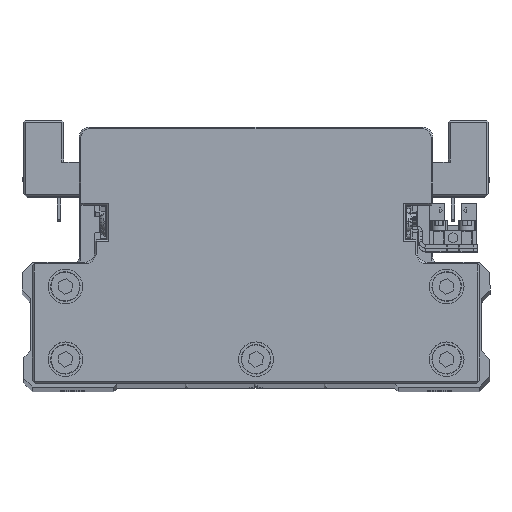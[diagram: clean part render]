
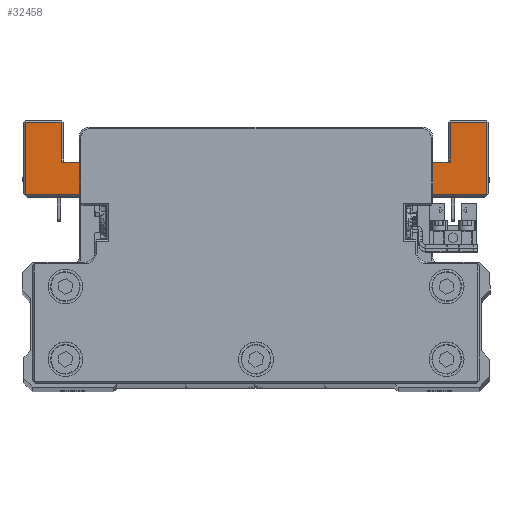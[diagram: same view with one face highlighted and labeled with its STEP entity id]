
A CAD part, top view. The second image highlights one B-rep face of the part: STEP entity #32458.
In plain terms, the highlighted planar face has unit normal (0, 0, 1) as drawn and (0, -1, 0) by its records, which use the part's own axes.
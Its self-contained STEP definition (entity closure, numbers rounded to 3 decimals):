
#385 = VECTOR ( 'NONE', #8636, 1000. ) ;
#416 = CARTESIAN_POINT ( 'NONE',  ( -56., -45., -64. ) ) ;
#597 = CARTESIAN_POINT ( 'NONE',  ( 25.802, -45., -41.111 ) ) ;
#708 = ORIENTED_EDGE ( 'NONE', *, *, #4598, .T. ) ;
#953 = CARTESIAN_POINT ( 'NONE',  ( -46., -45., -52.5 ) ) ;
#1018 = EDGE_CURVE ( 'NONE', #6846, #6693, #34623, .T. ) ;
#1850 = AXIS2_PLACEMENT_3D ( 'NONE', #31283, #3555, #15894 ) ;
#1914 = VECTOR ( 'NONE', #5238, 1000. ) ;
#2794 = CARTESIAN_POINT ( 'NONE',  ( -55.5, -45., -52.5 ) ) ;
#2919 = EDGE_CURVE ( 'NONE', #23694, #6693, #30512, .T. ) ;
#3251 = DIRECTION ( 'NONE',  ( -1., 0., 0. ) ) ;
#3349 = VECTOR ( 'NONE', #3251, 1000. ) ;
#3535 = EDGE_CURVE ( 'NONE', #9433, #7547, #7359, .T. ) ;
#3555 = DIRECTION ( 'NONE',  ( 0., 1., 0. ) ) ;
#3754 = DIRECTION ( 'NONE',  ( 0., 0., 1. ) ) ;
#3878 = ORIENTED_EDGE ( 'NONE', *, *, #2919, .F. ) ;
#3931 = VERTEX_POINT ( 'NONE', #34452 ) ;
#3962 = VERTEX_POINT ( 'NONE', #37870 ) ;
#4061 = EDGE_CURVE ( 'NONE', #28707, #29541, #32203, .T. ) ;
#4324 = DIRECTION ( 'NONE',  ( 0., 0., -1. ) ) ;
#4374 = EDGE_CURVE ( 'NONE', #34380, #3931, #18617, .T. ) ;
#4473 = CARTESIAN_POINT ( 'NONE',  ( 46., -45., -54. ) ) ;
#4506 = ORIENTED_EDGE ( 'NONE', *, *, #4374, .T. ) ;
#4598 = EDGE_CURVE ( 'NONE', #37817, #24857, #7872, .T. ) ;
#4775 = CARTESIAN_POINT ( 'NONE',  ( -66.5, -45., -64. ) ) ;
#5238 = DIRECTION ( 'NONE',  ( 1., 0., 0. ) ) ;
#6265 = CARTESIAN_POINT ( 'NONE',  ( 46., -45., -54. ) ) ;
#6693 = VERTEX_POINT ( 'NONE', #27126 ) ;
#6752 = CARTESIAN_POINT ( 'NONE',  ( -46., -45., -54. ) ) ;
#6831 = DIRECTION ( 'NONE',  ( 0., 0., -1. ) ) ;
#6846 = VERTEX_POINT ( 'NONE', #416 ) ;
#6888 = CARTESIAN_POINT ( 'NONE',  ( -39.868, -45., -42.987 ) ) ;
#6890 = CARTESIAN_POINT ( 'NONE',  ( -56., -45., -52.5 ) ) ;
#7359 = LINE ( 'NONE', #19709, #23981 ) ;
#7362 = PLANE ( 'NONE',  #19527 ) ;
#7487 = DIRECTION ( 'NONE',  ( 0., 0., -1. ) ) ;
#7547 = VERTEX_POINT ( 'NONE', #4775 ) ;
#7872 = CIRCLE ( 'NONE', #30498, 1.5 ) ;
#8065 = DIRECTION ( 'NONE',  ( 0., 1., 0. ) ) ;
#8085 = VECTOR ( 'NONE', #11779, 1000. ) ;
#8636 = DIRECTION ( 'NONE',  ( -1., 0., 0. ) ) ;
#8927 = CARTESIAN_POINT ( 'NONE',  ( 66.5, -45., -43.5 ) ) ;
#9201 = EDGE_CURVE ( 'NONE', #35825, #29541, #22886, .T. ) ;
#9250 = LINE ( 'NONE', #21597, #9674 ) ;
#9433 = VERTEX_POINT ( 'NONE', #15372 ) ;
#9674 = VECTOR ( 'NONE', #33929, 1000. ) ;
#9888 = CARTESIAN_POINT ( 'NONE',  ( 39.868, -45., -42.987 ) ) ;
#10015 = VECTOR ( 'NONE', #19236, 1000. ) ;
#10307 = CARTESIAN_POINT ( 'NONE',  ( 66.5, -45., -43. ) ) ;
#11373 = ORIENTED_EDGE ( 'NONE', *, *, #17810, .F. ) ;
#11616 = VECTOR ( 'NONE', #7487, 1000. ) ;
#11779 = DIRECTION ( 'NONE',  ( 1., 0., 0. ) ) ;
#12252 = LINE ( 'NONE', #24602, #20299 ) ;
#12917 = DIRECTION ( 'NONE',  ( -0.991, 0., 0.132 ) ) ;
#13145 = EDGE_CURVE ( 'NONE', #22106, #30830, #27160, .T. ) ;
#14287 = ORIENTED_EDGE ( 'NONE', *, *, #20892, .T. ) ;
#14429 = ORIENTED_EDGE ( 'NONE', *, *, #4061, .T. ) ;
#14862 = LINE ( 'NONE', #27213, #25416 ) ;
#15062 = EDGE_CURVE ( 'NONE', #38278, #23545, #28305, .T. ) ;
#15131 = DIRECTION ( 'NONE',  ( -1., 0., 0. ) ) ;
#15372 = CARTESIAN_POINT ( 'NONE',  ( -66.5, -45., -43. ) ) ;
#15811 = VECTOR ( 'NONE', #21275, 1000. ) ;
#15894 = DIRECTION ( 'NONE',  ( 0., 0., -1. ) ) ;
#15969 = ORIENTED_EDGE ( 'NONE', *, *, #15062, .T. ) ;
#16821 = DIRECTION ( 'NONE',  ( 1., 0., 0. ) ) ;
#17341 = CARTESIAN_POINT ( 'NONE',  ( 56., -45., -64. ) ) ;
#17455 = ORIENTED_EDGE ( 'NONE', *, *, #9201, .F. ) ;
#17810 = EDGE_CURVE ( 'NONE', #3962, #35825, #12252, .T. ) ;
#18563 = ORIENTED_EDGE ( 'NONE', *, *, #13145, .T. ) ;
#18617 = LINE ( 'NONE', #30965, #3349 ) ;
#18700 = ORIENTED_EDGE ( 'NONE', *, *, #38279, .T. ) ;
#19133 = LINE ( 'NONE', #31475, #29645 ) ;
#19236 = DIRECTION ( 'NONE',  ( 0., 0., 1. ) ) ;
#19279 = CIRCLE ( 'NONE', #1850, 1.5 ) ;
#19359 = CARTESIAN_POINT ( 'NONE',  ( -40.066, -45., -43. ) ) ;
#19527 = AXIS2_PLACEMENT_3D ( 'NONE', #19711, #32049, #4324 ) ;
#19709 = CARTESIAN_POINT ( 'NONE',  ( -66.5, -45., -64.5 ) ) ;
#19711 = CARTESIAN_POINT ( 'NONE',  ( 0., -45., 0. ) ) ;
#20299 = VECTOR ( 'NONE', #36927, 1000. ) ;
#20412 = DIRECTION ( 'NONE',  ( 0., 0., -1. ) ) ;
#20612 = LINE ( 'NONE', #32953, #1914 ) ;
#20892 = EDGE_CURVE ( 'NONE', #24857, #9433, #14862, .T. ) ;
#20981 = CARTESIAN_POINT ( 'NONE',  ( -36.217, -45., -42.5 ) ) ;
#21275 = DIRECTION ( 'NONE',  ( 0., 0., 1. ) ) ;
#21597 = CARTESIAN_POINT ( 'NONE',  ( -39.868, -45., -42.987 ) ) ;
#22106 = VERTEX_POINT ( 'NONE', #17341 ) ;
#22244 = LINE ( 'NONE', #34562, #25664 ) ;
#22886 = LINE ( 'NONE', #35213, #11616 ) ;
#23545 = VERTEX_POINT ( 'NONE', #24429 ) ;
#23629 = EDGE_CURVE ( 'NONE', #3931, #38278, #19279, .T. ) ;
#23668 = EDGE_CURVE ( 'NONE', #28707, #23694, #19133, .T. ) ;
#23694 = VERTEX_POINT ( 'NONE', #953 ) ;
#23981 = VECTOR ( 'NONE', #32047, 1000. ) ;
#24023 = LINE ( 'NONE', #36352, #385 ) ;
#24058 = ORIENTED_EDGE ( 'NONE', *, *, #34995, .T. ) ;
#24429 = CARTESIAN_POINT ( 'NONE',  ( 36.217, -45., -42.5 ) ) ;
#24563 = EDGE_CURVE ( 'NONE', #7547, #6846, #20612, .T. ) ;
#24585 = VECTOR ( 'NONE', #15131, 1000. ) ;
#24602 = CARTESIAN_POINT ( 'NONE',  ( 55.5, -45., -52.5 ) ) ;
#24857 = VERTEX_POINT ( 'NONE', #19359 ) ;
#25416 = VECTOR ( 'NONE', #39525, 1000. ) ;
#25656 = VECTOR ( 'NONE', #12917, 1000. ) ;
#25664 = VECTOR ( 'NONE', #6831, 1000. ) ;
#25748 = EDGE_LOOP ( 'NONE', ( #24058, #36295, #708, #14287, #39854, #26263, #37070, #3878, #33169, #14429, #17455, #11373, #18700, #18563, #27809, #4506, #27240, #15969 ) ) ;
#26263 = ORIENTED_EDGE ( 'NONE', *, *, #24563, .T. ) ;
#27126 = CARTESIAN_POINT ( 'NONE',  ( -56., -45., -52.5 ) ) ;
#27160 = LINE ( 'NONE', #39477, #8085 ) ;
#27213 = CARTESIAN_POINT ( 'NONE',  ( -66., -45., -43. ) ) ;
#27240 = ORIENTED_EDGE ( 'NONE', *, *, #23629, .T. ) ;
#27809 = ORIENTED_EDGE ( 'NONE', *, *, #34147, .T. ) ;
#28239 = EDGE_CURVE ( 'NONE', #35001, #37817, #9250, .T. ) ;
#28305 = LINE ( 'NONE', #597, #25656 ) ;
#28707 = VERTEX_POINT ( 'NONE', #6752 ) ;
#29541 = VERTEX_POINT ( 'NONE', #6265 ) ;
#29645 = VECTOR ( 'NONE', #3754, 1000. ) ;
#30498 = AXIS2_PLACEMENT_3D ( 'NONE', #35787, #8065, #20412 ) ;
#30512 = LINE ( 'NONE', #2794, #24585 ) ;
#30728 = CARTESIAN_POINT ( 'NONE',  ( 46., -45., -52.5 ) ) ;
#30830 = VERTEX_POINT ( 'NONE', #39655 ) ;
#30965 = CARTESIAN_POINT ( 'NONE',  ( 40.066, -45., -43. ) ) ;
#31283 = CARTESIAN_POINT ( 'NONE',  ( 40.066, -45., -41.5 ) ) ;
#31475 = CARTESIAN_POINT ( 'NONE',  ( -46., -45., -52.5 ) ) ;
#32047 = DIRECTION ( 'NONE',  ( 0., 0., -1. ) ) ;
#32049 = DIRECTION ( 'NONE',  ( 0., -1., 0. ) ) ;
#32203 = LINE ( 'NONE', #4473, #32404 ) ;
#32404 = VECTOR ( 'NONE', #16821, 1000. ) ;
#32458 = ADVANCED_FACE ( 'NONE', ( #35088 ), #7362, .T. ) ;
#32953 = CARTESIAN_POINT ( 'NONE',  ( -55.5, -45., -64. ) ) ;
#33169 = ORIENTED_EDGE ( 'NONE', *, *, #23668, .F. ) ;
#33929 = DIRECTION ( 'NONE',  ( -0.991, 0., -0.132 ) ) ;
#34147 = EDGE_CURVE ( 'NONE', #30830, #34380, #36640, .T. ) ;
#34380 = VERTEX_POINT ( 'NONE', #10307 ) ;
#34452 = CARTESIAN_POINT ( 'NONE',  ( 40.066, -45., -43. ) ) ;
#34562 = CARTESIAN_POINT ( 'NONE',  ( 56., -45., -64.5 ) ) ;
#34623 = LINE ( 'NONE', #6890, #10015 ) ;
#34995 = EDGE_CURVE ( 'NONE', #23545, #35001, #24023, .T. ) ;
#35001 = VERTEX_POINT ( 'NONE', #20981 ) ;
#35088 = FACE_OUTER_BOUND ( 'NONE', #25748, .T. ) ;
#35213 = CARTESIAN_POINT ( 'NONE',  ( 46., -45., -52.5 ) ) ;
#35787 = CARTESIAN_POINT ( 'NONE',  ( -40.066, -45., -41.5 ) ) ;
#35825 = VERTEX_POINT ( 'NONE', #30728 ) ;
#36295 = ORIENTED_EDGE ( 'NONE', *, *, #28239, .T. ) ;
#36352 = CARTESIAN_POINT ( 'NONE',  ( -77.786, -45., -42.5 ) ) ;
#36640 = LINE ( 'NONE', #8927, #15811 ) ;
#36927 = DIRECTION ( 'NONE',  ( -1., 0., 0. ) ) ;
#37070 = ORIENTED_EDGE ( 'NONE', *, *, #1018, .T. ) ;
#37817 = VERTEX_POINT ( 'NONE', #6888 ) ;
#37870 = CARTESIAN_POINT ( 'NONE',  ( 56., -45., -52.5 ) ) ;
#38279 = EDGE_CURVE ( 'NONE', #3962, #22106, #22244, .T. ) ;
#38278 = VERTEX_POINT ( 'NONE', #9888 ) ;
#39477 = CARTESIAN_POINT ( 'NONE',  ( 67., -45., -64. ) ) ;
#39525 = DIRECTION ( 'NONE',  ( -1., 0., 0. ) ) ;
#39655 = CARTESIAN_POINT ( 'NONE',  ( 66.5, -45., -64. ) ) ;
#39854 = ORIENTED_EDGE ( 'NONE', *, *, #3535, .T. ) ;
